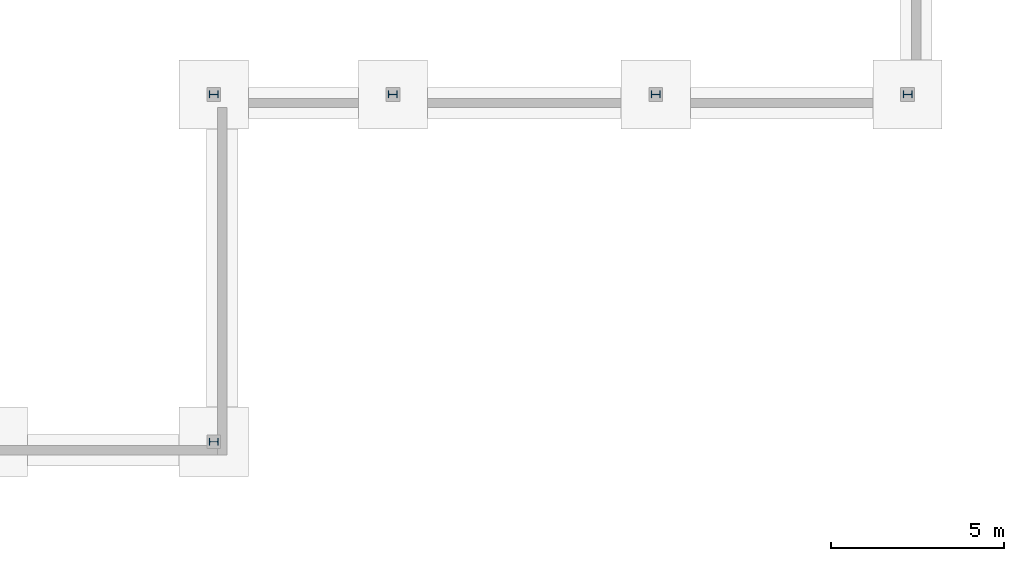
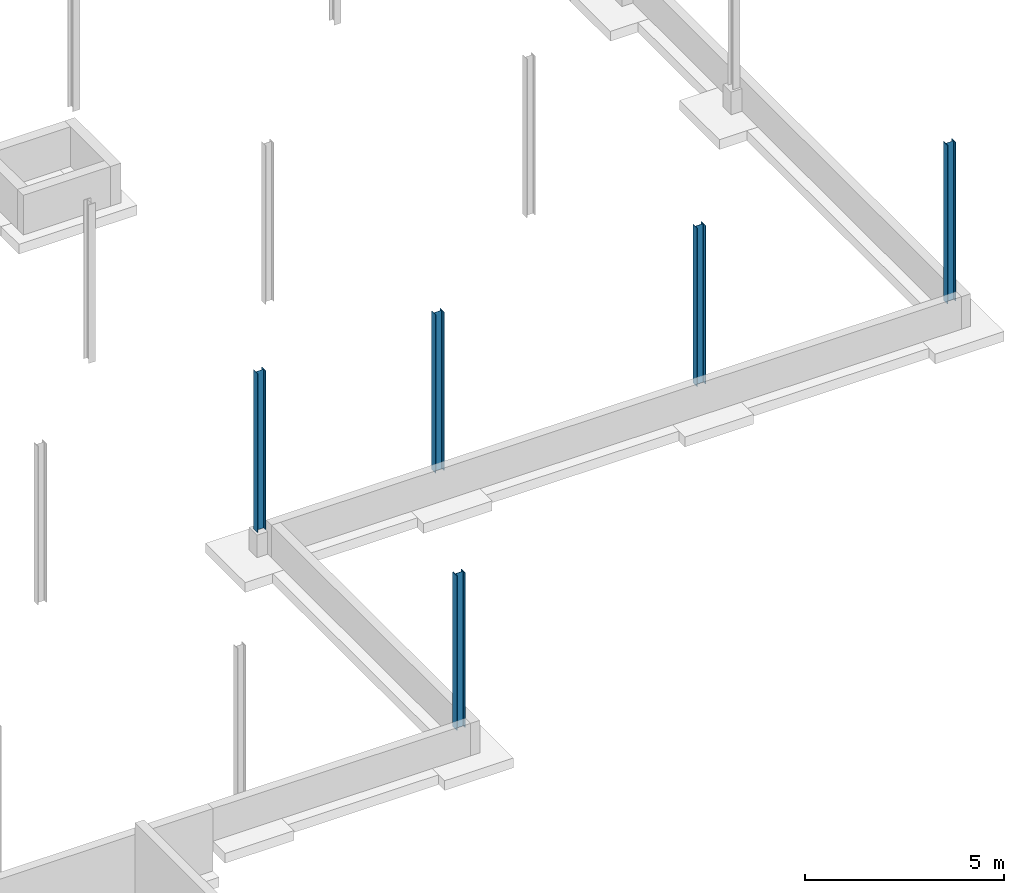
# One storey, part 3 of 11: 5 columns.
"""IFC2X3 building model written with IfcOpenShell, lengths in metres."""

from ifc_helpers import new_model, entity, si_unit, converted_unit, frame, frame_2d, origin, place, context, project, spatial, polyline, circle_curve, parameter, trimmed, segment, composite_curve, outline, extrude, source, transform, mapped, material, type_object, type_shapes, element, save


model = new_model("IFC2X3")

# Units and contexts
model_context = context("Model", 3, precision=1e-09, world=origin())
plan_context = context("Plan", 3, precision=1e-09, world=origin())
ifc_project = project(units=[si_unit("LENGTHUNIT", "METRE"), si_unit("AREAUNIT", "SQUARE_METRE"), si_unit("VOLUMEUNIT", "CUBIC_METRE"), converted_unit("PLANEANGLEUNIT", "DEGREE", entity("IfcRatioMeasure", 0.01745329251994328), si_unit("PLANEANGLEUNIT", "RADIAN"), dimensions=[0, 0, 0, 0, 0, 0, 0]), si_unit("TIMEUNIT", "SECOND")], contexts=[model_context, plan_context])

# Site, building, storey
site_placement = place(None, origin())
site = spatial("IfcSite", under=ifc_project, at=site_placement, Name="Default", CompositionType="ELEMENT")
building_placement = place(site_placement, origin())
building = spatial("IfcBuilding", under=site, at=building_placement, CompositionType="ELEMENT")
storey_placement = place(building_placement, frame((0.0, 0.0, -1.0)))
storey = spatial("IfcBuildingStorey", under=building, at=storey_placement, Name="TOF Footing", CompositionType="ELEMENT", Elevation=-1.000000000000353)

# Columns
ifc_material = material(Name="Metal - Steel - 345 MPa")
column_type_1 = type_object("IfcColumnType", Name="W250X67", PredefinedType="COLUMN")
shared_shape_1 = source(origin(), model_context, "Body", "SweptSolid", [
    extrude(outline(composite_curve([segment(polyline([(-0.102, -0.1285), (0.102, -0.1285)]), True, "CONTINUOUS"), segment(polyline([(0.102, -0.1285), (0.102, -0.1128)]), True, "CONTINUOUS"), segment(polyline([(0.102, -0.1128), (0.02174999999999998, -0.1128)]), True, "CONTINUOUS"), segment(trimmed(circle_curve(frame_2d((0.02174999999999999, -0.09549999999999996), x_axis=(-1.0, 0.0)), 0.0173), [parameter(4.071109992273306e-13)], [parameter(90.00000000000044)], True, "PARAMETER"), False, "CONTINUOUS"), segment(polyline([(0.004449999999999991, -0.09549999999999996), (0.004449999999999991, 0.09549999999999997)]), True, "CONTINUOUS"), segment(trimmed(circle_curve(frame_2d((0.02174999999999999, 0.09549999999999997), x_axis=(-1.0, 0.0)), 0.0173), [parameter(270.0000000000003)], [parameter(3.562221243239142e-13)], True, "PARAMETER"), False, "CONTINUOUS"), segment(polyline([(0.02174999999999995, 0.1128), (0.102, 0.1128)]), True, "CONTINUOUS"), segment(polyline([(0.102, 0.1128), (0.102, 0.1285)]), True, "CONTINUOUS"), segment(polyline([(0.102, 0.1285), (-0.102, 0.1285)]), True, "CONTINUOUS"), segment(polyline([(-0.102, 0.1285), (-0.102, 0.1128)]), True, "CONTINUOUS"), segment(polyline([(-0.102, 0.1128), (-0.02174999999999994, 0.1128)]), True, "CONTINUOUS"), segment(trimmed(circle_curve(frame_2d((-0.02175000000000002, 0.09549999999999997), x_axis=(-1.0, 0.0)), 0.0173), [parameter(179.9999999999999)], [parameter(269.9999999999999)], True, "PARAMETER"), False, "CONTINUOUS"), segment(polyline([(-0.004450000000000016, 0.09550000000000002), (-0.004450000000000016, -0.09549999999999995)]), True, "CONTINUOUS"), segment(trimmed(circle_curve(frame_2d((-0.02175000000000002, -0.09549999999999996), x_axis=(-1.0, 0.0)), 0.0173), [parameter(90.00000000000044)], [parameter(180.0000000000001)], True, "PARAMETER"), False, "CONTINUOUS"), segment(polyline([(-0.02175000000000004, -0.1128), (-0.102, -0.1128)]), True, "CONTINUOUS"), segment(polyline([(-0.102, -0.1128), (-0.102, -0.1285)]), True, "CONTINUOUS")], self_intersect=False)), frame((0.0, 0.0, -0.305000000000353), z_axis=(0.0, 0.0, 1.0), x_axis=(-1.0, 0.0, 0.0)), (0.0, 0.0, 1.0), 4.87500000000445),
])
type_shapes(column_type_1, [shared_shape_1])
for number, where, z_axis, x_axis in (
    (1, (0.0, 10.03999999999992, 1.0), (0.0, 0.0, 1.0), (0.0, 1.0, 0.0)),
    (2, (-7.280000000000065, 10.03999999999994, 1.0), (0.0, 0.0, 1.0), (0.0, 1.0, 0.0)),
    (3, (-14.87997499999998, 10.03999999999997, 1.0), (0.0, 0.0, 1.0), (0.0, 1.0, 0.0)),
    (4, (-20.06000000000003, 10.03999999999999, 1.0), (0.0, 0.0, 1.0), (0.0, 1.0, 0.0)),
):
    element("IfcColumn", number, at=place(storey_placement, frame(where, z_axis=z_axis, x_axis=x_axis)), inside=storey, type_object=column_type_1, material=ifc_material, Name="M_W-Wide Flange-Column:W250X67:W250X67", ObjectType="W250X67", context=model_context, shape_type="MappedRepresentation", body=[
        mapped(shared_shape_1, transform((0.0, 0.0, 0.0), scale=1.0)),
    ])
column_type_2 = type_object("IfcColumnType", Name="W250X67", PredefinedType="COLUMN")
shared_shape_2 = source(origin(), model_context, "Body", "SweptSolid", [
    extrude(outline(composite_curve([segment(polyline([(-0.102, -0.1285), (0.102, -0.1285)]), True, "CONTINUOUS"), segment(polyline([(0.102, -0.1285), (0.102, -0.1128)]), True, "CONTINUOUS"), segment(polyline([(0.102, -0.1128), (0.02174999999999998, -0.1128)]), True, "CONTINUOUS"), segment(trimmed(circle_curve(frame_2d((0.02174999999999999, -0.09549999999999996), x_axis=(-1.0, 0.0)), 0.0173), [parameter(4.071109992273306e-13)], [parameter(90.00000000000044)], True, "PARAMETER"), False, "CONTINUOUS"), segment(polyline([(0.004449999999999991, -0.09549999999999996), (0.004449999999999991, 0.09549999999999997)]), True, "CONTINUOUS"), segment(trimmed(circle_curve(frame_2d((0.02174999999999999, 0.09549999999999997), x_axis=(-1.0, 0.0)), 0.0173), [parameter(270.0000000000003)], [parameter(3.562221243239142e-13)], True, "PARAMETER"), False, "CONTINUOUS"), segment(polyline([(0.02174999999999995, 0.1128), (0.102, 0.1128)]), True, "CONTINUOUS"), segment(polyline([(0.102, 0.1128), (0.102, 0.1285)]), True, "CONTINUOUS"), segment(polyline([(0.102, 0.1285), (-0.102, 0.1285)]), True, "CONTINUOUS"), segment(polyline([(-0.102, 0.1285), (-0.102, 0.1128)]), True, "CONTINUOUS"), segment(polyline([(-0.102, 0.1128), (-0.02174999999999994, 0.1128)]), True, "CONTINUOUS"), segment(trimmed(circle_curve(frame_2d((-0.02175000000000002, 0.09549999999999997), x_axis=(-1.0, 0.0)), 0.0173), [parameter(179.9999999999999)], [parameter(269.9999999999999)], True, "PARAMETER"), False, "CONTINUOUS"), segment(polyline([(-0.004450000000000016, 0.09550000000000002), (-0.004450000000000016, -0.09549999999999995)]), True, "CONTINUOUS"), segment(trimmed(circle_curve(frame_2d((-0.02175000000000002, -0.09549999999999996), x_axis=(-1.0, 0.0)), 0.0173), [parameter(90.00000000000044)], [parameter(180.0000000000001)], True, "PARAMETER"), False, "CONTINUOUS"), segment(polyline([(-0.02175000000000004, -0.1128), (-0.102, -0.1128)]), True, "CONTINUOUS"), segment(polyline([(-0.102, -0.1128), (-0.102, -0.1285)]), True, "CONTINUOUS")], self_intersect=False)), frame((0.0, 0.0, -0.305000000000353), z_axis=(0.0, 0.0, 1.0), x_axis=(-1.0, 0.0, 0.0)), (0.0, 0.0, 1.0), 4.755000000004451),
])
type_shapes(column_type_2, [shared_shape_2])
column_placement = place(storey_placement, frame((-20.06000000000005, 0.0, 1.0), z_axis=(0.0, 0.0, 1.0), x_axis=(0.0, 1.0, 0.0)))
element("IfcColumn", 5, at=column_placement, inside=storey, type_object=column_type_2, material=ifc_material, Name="M_W-Wide Flange-Column:W250X67:W250X67", ObjectType="W250X67", context=model_context, shape_type="MappedRepresentation", body=[
    mapped(shared_shape_2, transform((0.0, 0.0, 0.0), scale=1.0)),
])

save(model, "model.ifc")
